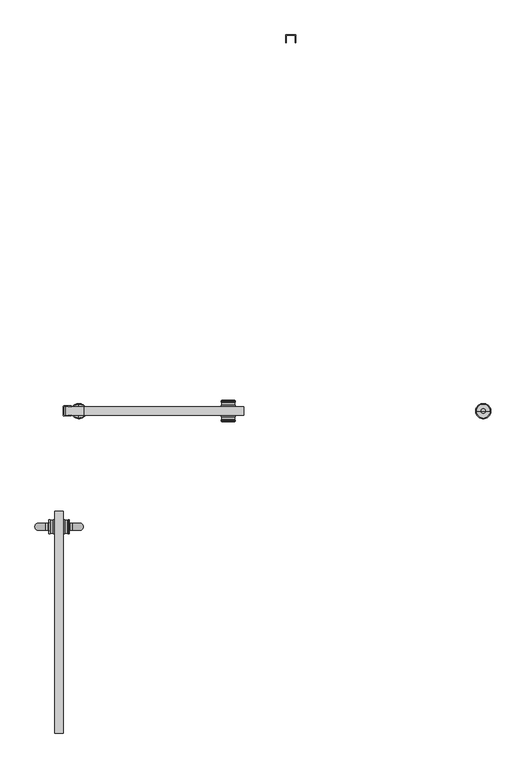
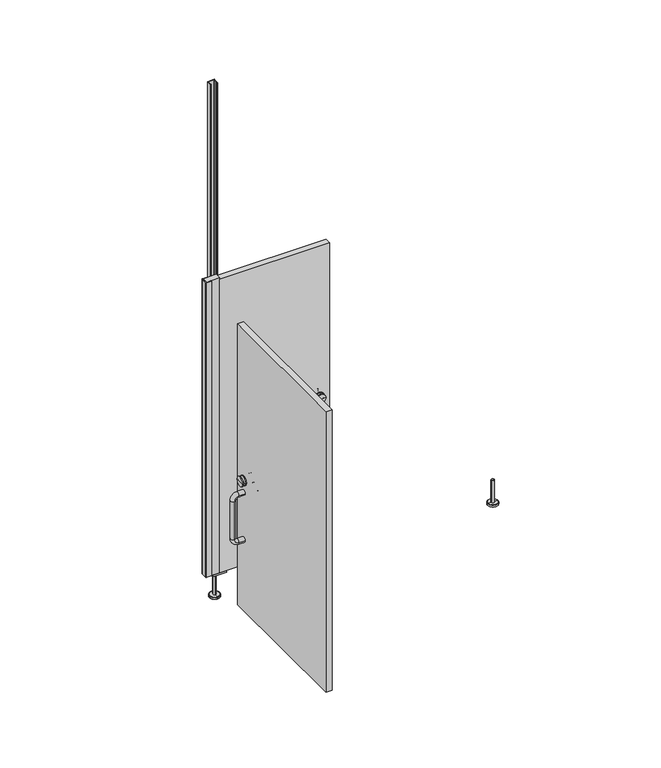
"""IFC4 building model written with IfcOpenShell, lengths in millimetres: proxy geometry, Partition_EuroStyle-Bradley_Corp-ADA_Alcove_3StandardStall-LOFT : Partition_EuroStyle-Bradley_Corp-ADA_Alcove_3StandardStall-LOFT."""

from ifc_helpers import new_model, si_unit, point, frame, frame_2d, origin, place, context, project, spatial, polyline, circle_curve, ellipse_curve, trimmed, segment, composite_curve, outline, extrude, source, transform, mapped, element, save
from ifc_brep_helpers import plane_surface, cylinder_surface, revolved_surface, advanced_brep


def specialty_equipment_daf9b19e(model_context):
    return source(origin(), model_context, "Body", "SolidModel", [
        advanced_brep(
        [(3297.8453255, -1541.9996549, 150.0000008), (3315.8453248, -1541.9996549, 150.0000008), (3315.8453248, -1541.9996549, 12.0000001), (3297.8453255, -1541.9996549, 12.0000001), (3306.8453251, -1541.9996549, 150.0000008), (3275.8453262, -1541.9996549, 0.0), (3337.8453241, -1541.9996549, 0.0), (3306.8453251, -1541.9996549, 0.0), (3275.8453262, -1541.9996549, 10.0000001), (3337.8453241, -1541.9996549, 10.0000001), (3277.8477381, -1541.9996549, 12.0000001), (3335.8429122, -1541.9996549, 12.0000001)],
        [
            (0, 1, circle_curve(frame((3306.8453251, -1541.9996549, 150.0000008), z_axis=(0.0, 0.0, -1.0), x_axis=(1.0, 0.0, 0.0)), 8.9999997)),
            (1, 2),
            (2, 3, circle_curve(frame((3306.8453251, -1541.9996549, 12.0000001), z_axis=(0.0, 0.0, 1.0), x_axis=(1.0, 0.0, 0.0)), 8.9999997)),
            (3, 0),
            (1, 0, circle_curve(frame((3306.8453251, -1541.9996549, 150.0000008), z_axis=(0.0, 0.0, -1.0), x_axis=(1.0, 0.0, 0.0)), 8.9999997)),
            (3, 2, circle_curve(frame((3306.8453251, -1541.9996549, 12.0000001), z_axis=(0.0, 0.0, 1.0), x_axis=(1.0, 0.0, 0.0)), 8.9999997)),
            (4, 1),
            (0, 4),
            (5, 6, circle_curve(frame((3306.8453251, -1541.9996549, 0.0), z_axis=(0.0, 0.0, -1.0), x_axis=(1.0, 0.0, 0.0)), 30.9999989)),
            (6, 7),
            (7, 5),
            (6, 5, circle_curve(frame((3306.8453251, -1541.9996549, 0.0), z_axis=(0.0, 0.0, -1.0), x_axis=(1.0, 0.0, 0.0)), 30.9999989)),
            (8, 9, circle_curve(frame((3306.8453251, -1541.9996549, 10.0000001), z_axis=(0.0, 0.0, -1.0), x_axis=(1.0, 0.0, 0.0)), 30.9999989)),
            (9, 6),
            (5, 8),
            (9, 8, circle_curve(frame((3306.8453251, -1541.9996549, 10.0000001), z_axis=(0.0, 0.0, -1.0), x_axis=(1.0, 0.0, 0.0)), 30.9999989)),
            (10, 11, circle_curve(frame((3306.8453251, -1541.9996549, 12.0000001), z_axis=(0.0, 0.0, -1.0), x_axis=(1.0, 0.0, 0.0)), 28.997587)),
            (11, 9),
            (8, 10),
            (11, 10, circle_curve(frame((3306.8453251, -1541.9996549, 12.0000001), z_axis=(0.0, 0.0, -1.0), x_axis=(1.0, 0.0, 0.0)), 28.997587)),
            (2, 11),
            (10, 3),
        ],
        [
            cylinder_surface(frame((3306.8453251, -1541.9996549, 0.0), z_axis=(0.0, 0.0, 1.0), x_axis=(1.0, 0.0, 0.0)), 8.9999997),
            plane_surface(frame((3306.8453251, -1541.9996549, 150.0000008), z_axis=(0.0, 0.0, 1.0), x_axis=(1.0, 0.0, 0.0))),
            plane_surface(frame((3306.8453251, -1541.9996549, 0.0), z_axis=(0.0, 0.0, -1.0), x_axis=(1.0, 0.0, 0.0))),
            cylinder_surface(frame((3306.8453251, -1541.9996549, 0.0), z_axis=(0.0, 0.0, 1.0), x_axis=(1.0, 0.0, 0.0)), 30.9999989),
            revolved_surface(polyline([(3337.8453241, -1541.9996549, 10.0000001), (3335.8429122, -1541.9996549, 12.0000001)]), (3306.8453251, -1541.9996549, 0.0), (0.0, 0.0, 1.0)),
            plane_surface(frame((3306.8453251, -1541.9996549, 12.0000001), z_axis=(0.0, 0.0, 1.0), x_axis=(1.0, 0.0, 0.0))),
        ],
        [
            (0, [[1, 2, 3, 4]]),
            (0, [[5, -4, 6, -2]]),
            (1, [[7, -1, 8]]),
            (1, [[-8, -5, -7]]),
            (2, [[9, 10, 11]]),
            (2, [[12, -11, -10]]),
            (3, [[13, 14, -9, 15]]),
            (3, [[16, -15, -12, -14]]),
            (4, [[17, 18, -13, 19]]),
            (4, [[20, -19, -16, -18]]),
            (5, [[-3, 21, -17, 22]]),
            (5, [[-6, -22, -20, -21]]),
        ],
    ),
        advanced_brep(
        [(1549.4, -2031.8, 975.0), (1549.4, -2001.8, 975.0), (1549.4, -2031.8, 679.0), (1549.4, -2001.8, 679.0), (1513.4, -2001.8, 975.0), (1513.4, -2031.8, 975.0), (1483.4, -2001.8, 945.0), (1483.4, -2001.8, 709.0), (1483.4, -2031.8, 709.0), (1483.4, -2031.8, 945.0), (1513.4, -2001.8, 679.0), (1513.4, -2031.8, 679.0)],
        [
            (0, 1, circle_curve(frame((1549.4, -2016.8, 975.0), z_axis=(1.0, 0.0, 0.0), x_axis=(0.0, 1.0, 0.0)), 15.0)),
            (1, 0, circle_curve(frame((1549.4, -2016.8, 975.0), z_axis=(1.0, 0.0, 0.0), x_axis=(0.0, 1.0, 0.0)), 15.0)),
            (2, 3, circle_curve(frame((1549.4, -2016.8, 679.0), z_axis=(1.0, 0.0, 0.0), x_axis=(0.0, 1.0, 0.0)), 15.0)),
            (3, 2, circle_curve(frame((1549.4, -2016.8, 679.0), z_axis=(1.0, 0.0, 0.0), x_axis=(0.0, 1.0, 0.0)), 15.0)),
            (1, 4),
            (4, 5, circle_curve(frame((1513.4, -2016.8, 975.0), z_axis=(1.0, 0.0, 0.0), x_axis=(0.0, 1.0, 0.0)), 15.0)),
            (5, 0),
            (5, 4, circle_curve(frame((1513.4, -2016.8, 975.0), z_axis=(1.0, 0.0, 0.0), x_axis=(0.0, 1.0, 0.0)), 15.0)),
            (6, 7),
            (7, 8, circle_curve(frame((1483.4, -2016.8, 709.0), z_axis=(0.0, 0.0, 1.0), x_axis=(0.0, 1.0, 0.0)), 15.0)),
            (8, 9),
            (9, 6, circle_curve(frame((1483.4, -2016.8, 945.0), z_axis=(0.0, 0.0, -1.0), x_axis=(0.0, 1.0, 0.0)), 15.0)),
            (8, 7, circle_curve(frame((1483.4, -2016.8, 709.0), z_axis=(0.0, 0.0, 1.0), x_axis=(0.0, 1.0, 0.0)), 15.0)),
            (6, 9, circle_curve(frame((1483.4, -2016.8, 945.0), z_axis=(0.0, 0.0, -1.0), x_axis=(0.0, 1.0, 0.0)), 15.0)),
            (10, 3),
            (2, 11),
            (11, 10, circle_curve(frame((1513.4, -2016.8, 679.0), z_axis=(1.0, 0.0, 0.0), x_axis=(0.0, 1.0, 0.0)), 15.0)),
            (10, 11, circle_curve(frame((1513.4, -2016.8, 679.0), z_axis=(1.0, 0.0, 0.0), x_axis=(0.0, 1.0, 0.0)), 15.0)),
            (9, 5, circle_curve(frame((1513.4, -2031.8, 945.0), z_axis=(0.0, 1.0, 0.0), x_axis=(0.0, 0.0, 1.0)), 30.0)),
            (4, 6, circle_curve(frame((1513.4, -2001.8, 945.0), z_axis=(0.0, -1.0, 0.0), x_axis=(0.0, 0.0, 1.0)), 30.0)),
            (11, 8, circle_curve(frame((1513.4, -2031.8, 709.0), z_axis=(0.0, 1.0, 0.0), x_axis=(-1.0, 0.0, 0.0)), 30.0)),
            (7, 10, circle_curve(frame((1513.4, -2001.8, 709.0), z_axis=(0.0, -1.0, 0.0), x_axis=(-1.0, 0.0, 0.0)), 30.0)),
        ],
        [
            plane_surface(frame((1549.4, -2016.8, 975.0), z_axis=(1.0, 0.0, 0.0), x_axis=(0.0, 1.0, 0.0))),
            plane_surface(frame((1549.4, -2016.8, 679.0), z_axis=(1.0, 0.0, 0.0), x_axis=(0.0, 1.0, 0.0))),
            cylinder_surface(frame((1549.4, -2016.8, 975.0), z_axis=(1.0, 0.0, 0.0), x_axis=(0.0, 1.0, 0.0)), 15.0),
            cylinder_surface(frame((1483.4, -2016.8, 945.0), z_axis=(0.0, 0.0, 1.0), x_axis=(0.0, 1.0, 0.0)), 15.0),
            cylinder_surface(frame((1513.4, -2016.8, 679.0), z_axis=(-1.0, 0.0, 0.0), x_axis=(0.0, 1.0, 0.0)), 15.0),
            revolved_surface(trimmed(ellipse_curve(frame((1513.4, -2016.8, 975.0), z_axis=(-1.0, 0.0, 0.0), x_axis=(0.0, 1.0, 0.0)), 15.0, 15.0), [point((1513.4, -2031.8, 975.0))], [point((1513.4, -2001.8, 975.0))], True, "CARTESIAN"), (1513.4, -2016.8, 945.0), (0.0, 1.0, 0.0)),
            revolved_surface(trimmed(ellipse_curve(frame((1513.4, -2016.8, 975.0), z_axis=(-1.0, 0.0, 0.0), x_axis=(0.0, 1.0, 0.0)), 15.0, 15.0), [point((1513.4, -2001.8, 975.0))], [point((1513.4, -2031.8, 975.0))], True, "CARTESIAN"), (1513.4, -2016.8, 945.0), (0.0, 1.0, 0.0)),
            revolved_surface(trimmed(ellipse_curve(frame((1483.4, -2016.8, 709.0), z_axis=(0.0, 0.0, -1.0), x_axis=(0.0, 1.0, 0.0)), 15.0, 15.0), [point((1483.4, -2031.8, 709.0))], [point((1483.4, -2001.8, 709.0))], True, "CARTESIAN"), (1513.4, -2016.8, 709.0), (0.0, 1.0, 0.0)),
            revolved_surface(trimmed(ellipse_curve(frame((1483.4, -2016.8, 709.0), z_axis=(0.0, 0.0, -1.0), x_axis=(0.0, 1.0, 0.0)), 15.0, 15.0), [point((1483.4, -2001.8, 709.0))], [point((1483.4, -2031.8, 709.0))], True, "CARTESIAN"), (1513.4, -2016.8, 709.0), (0.0, 1.0, 0.0)),
        ],
        [
            (0, [[1, 2]]),
            (1, [[3, 4]]),
            (2, [[5, 6, 7, -2]]),
            (2, [[-7, 8, -5, -1]]),
            (3, [[9, 10, 11, 12]]),
            (3, [[-11, 13, -9, 14]]),
            (4, [[15, -3, 16, 17]]),
            (4, [[-16, -4, -15, 18]]),
            (5, [[-12, 19, -6, 20]]),
            (6, [[-14, -20, -8, -19]]),
            (7, [[-17, 21, -10, 22]]),
            (8, [[-18, -22, -13, -21]]),
        ],
    ),
        advanced_brep(
        [(1585.4203251, -2031.8, 975.0), (1585.4203251, -2001.8, 975.0), (1585.4203251, -2031.8, 679.0), (1585.4203251, -2001.8, 679.0), (1621.4203251, -2031.8, 975.0), (1621.4203251, -2001.8, 975.0), (1651.4203251, -2001.8, 945.0), (1651.4203251, -2031.8, 945.0), (1651.4203251, -2031.8, 709.0), (1651.4203251, -2001.8, 709.0), (1621.4203251, -2001.8, 679.0), (1621.4203251, -2031.8, 679.0)],
        [
            (0, 1, circle_curve(frame((1585.4203251, -2016.8, 975.0), z_axis=(-1.0, 0.0, 0.0), x_axis=(0.0, 1.0, 0.0)), 15.0)),
            (1, 0, circle_curve(frame((1585.4203251, -2016.8, 975.0), z_axis=(-1.0, 0.0, 0.0), x_axis=(0.0, 1.0, 0.0)), 15.0)),
            (2, 3, circle_curve(frame((1585.4203251, -2016.8, 679.0), z_axis=(-1.0, 0.0, 0.0), x_axis=(0.0, 1.0, 0.0)), 15.0)),
            (3, 2, circle_curve(frame((1585.4203251, -2016.8, 679.0), z_axis=(-1.0, 0.0, 0.0), x_axis=(0.0, 1.0, 0.0)), 15.0)),
            (0, 4),
            (4, 5, circle_curve(frame((1621.4203251, -2016.8, 975.0), z_axis=(-1.0, 0.0, 0.0), x_axis=(0.0, 1.0, 0.0)), 15.0)),
            (5, 1),
            (5, 4, circle_curve(frame((1621.4203251, -2016.8, 975.0), z_axis=(-1.0, 0.0, 0.0), x_axis=(0.0, 1.0, 0.0)), 15.0)),
            (6, 7, circle_curve(frame((1651.4203251, -2016.8, 945.0), z_axis=(0.0, 0.0, -1.0), x_axis=(0.0, 1.0, 0.0)), 15.0)),
            (7, 8),
            (8, 9, circle_curve(frame((1651.4203251, -2016.8, 709.0), z_axis=(0.0, 0.0, 1.0), x_axis=(0.0, 1.0, 0.0)), 15.0)),
            (9, 6),
            (7, 6, circle_curve(frame((1651.4203251, -2016.8, 945.0), z_axis=(0.0, 0.0, -1.0), x_axis=(0.0, 1.0, 0.0)), 15.0)),
            (9, 8, circle_curve(frame((1651.4203251, -2016.8, 709.0), z_axis=(0.0, 0.0, 1.0), x_axis=(0.0, 1.0, 0.0)), 15.0)),
            (10, 11, circle_curve(frame((1621.4203251, -2016.8, 679.0), z_axis=(-1.0, 0.0, 0.0), x_axis=(0.0, 1.0, 0.0)), 15.0)),
            (11, 2),
            (3, 10),
            (11, 10, circle_curve(frame((1621.4203251, -2016.8, 679.0), z_axis=(-1.0, 0.0, 0.0), x_axis=(0.0, 1.0, 0.0)), 15.0)),
            (6, 5, circle_curve(frame((1621.4203251, -2001.8, 945.0), z_axis=(0.0, -1.0, 0.0), x_axis=(0.0, 0.0, 1.0)), 30.0)),
            (4, 7, circle_curve(frame((1621.4203251, -2031.8, 945.0), z_axis=(0.0, 1.0, 0.0), x_axis=(0.0, 0.0, 1.0)), 30.0)),
            (10, 9, circle_curve(frame((1621.4203251, -2001.8, 709.0), z_axis=(0.0, -1.0, 0.0), x_axis=(1.0, 0.0, 0.0)), 30.0)),
            (8, 11, circle_curve(frame((1621.4203251, -2031.8, 709.0), z_axis=(0.0, 1.0, 0.0), x_axis=(1.0, 0.0, 0.0)), 30.0)),
        ],
        [
            plane_surface(frame((1585.4203251, -2016.8, 975.0), z_axis=(-1.0, 0.0, 0.0), x_axis=(0.0, 1.0, 0.0))),
            plane_surface(frame((1585.4203251, -2016.8, 679.0), z_axis=(-1.0, 0.0, 0.0), x_axis=(0.0, 1.0, 0.0))),
            cylinder_surface(frame((1585.4203251, -2016.8, 975.0), z_axis=(-1.0, 0.0, 0.0), x_axis=(0.0, 1.0, 0.0)), 15.0),
            cylinder_surface(frame((1651.4203251, -2016.8, 945.0), z_axis=(0.0, 0.0, 1.0), x_axis=(0.0, 1.0, 0.0)), 15.0),
            cylinder_surface(frame((1621.4203251, -2016.8, 679.0), z_axis=(1.0, 0.0, 0.0), x_axis=(0.0, 1.0, 0.0)), 15.0),
            revolved_surface(trimmed(ellipse_curve(frame((1621.4203251, -2016.8, 975.0), z_axis=(-1.0, 0.0, 0.0), x_axis=(0.0, 1.0, 0.0)), 15.0, 15.0), [point((1621.4203251, -2031.8, 975.0))], [point((1621.4203251, -2001.8, 975.0))], True, "CARTESIAN"), (1621.4203251, -2016.8, 945.0), (0.0, 1.0, 0.0)),
            revolved_surface(trimmed(ellipse_curve(frame((1621.4203251, -2016.8, 975.0), z_axis=(-1.0, 0.0, 0.0), x_axis=(0.0, 1.0, 0.0)), 15.0, 15.0), [point((1621.4203251, -2001.8, 975.0))], [point((1621.4203251, -2031.8, 975.0))], True, "CARTESIAN"), (1621.4203251, -2016.8, 945.0), (0.0, 1.0, 0.0)),
            revolved_surface(trimmed(ellipse_curve(frame((1651.4203251, -2016.8, 709.0), z_axis=(0.0, 0.0, 1.0), x_axis=(0.0, 1.0, 0.0)), 15.0, 15.0), [point((1651.4203251, -2031.8, 709.0))], [point((1651.4203251, -2001.8, 709.0))], True, "CARTESIAN"), (1621.4203251, -2016.8, 709.0), (0.0, 1.0, 0.0)),
            revolved_surface(trimmed(ellipse_curve(frame((1651.4203251, -2016.8, 709.0), z_axis=(0.0, 0.0, 1.0), x_axis=(0.0, 1.0, 0.0)), 15.0, 15.0), [point((1651.4203251, -2001.8, 709.0))], [point((1651.4203251, -2031.8, 709.0))], True, "CARTESIAN"), (1621.4203251, -2016.8, 709.0), (0.0, 1.0, 0.0)),
        ],
        [
            (0, [[1, 2]]),
            (1, [[3, 4]]),
            (2, [[-1, 5, 6, 7]]),
            (2, [[-2, -7, 8, -5]]),
            (3, [[9, 10, 11, 12]]),
            (3, [[13, -12, 14, -10]]),
            (4, [[15, 16, -4, 17]]),
            (4, [[18, -17, -3, -16]]),
            (5, [[19, -6, 20, -9]]),
            (6, [[-20, -8, -19, -13]]),
            (7, [[21, -11, 22, -15]]),
            (8, [[-22, -14, -21, -18]]),
        ],
    ),
        advanced_brep(
        [(1549.4203251, -2045.375, 1050.0), (1549.4203251, -1988.225, 1050.0), (1549.4203251, -2016.8, 1050.0), (1544.6578251, -2045.375, 1050.0), (1544.6578251, -1988.225, 1050.0), (1525.6078251, -2045.375, 1050.0), (1525.6078251, -1988.225, 1050.0), (1530.3703251, -1988.225, 1050.0), (1530.3703251, -2045.375, 1050.0), (1531.9578251, -1989.8125, 1050.0), (1531.9578251, -2043.7875, 1050.0), (1543.0703251, -1989.8125, 1050.0), (1543.0703251, -2043.7875, 1050.0), (1524.0203251, -2016.8, 1050.0)],
        [
            (0, 1, circle_curve(frame((1549.4203251, -2016.8, 1050.0), z_axis=(1.0, 0.0, 0.0), x_axis=(0.0, 1.0, 0.0)), 28.575)),
            (1, 2),
            (2, 0),
            (1, 0, circle_curve(frame((1549.4203251, -2016.8, 1050.0), z_axis=(1.0, 0.0, 0.0), x_axis=(0.0, 1.0, 0.0)), 28.575)),
            (3, 4, circle_curve(frame((1544.6578251, -2016.8, 1050.0), z_axis=(1.0, 0.0, 0.0), x_axis=(0.0, 1.0, 0.0)), 28.575)),
            (4, 1),
            (0, 3),
            (4, 3, circle_curve(frame((1544.6578251, -2016.8, 1050.0), z_axis=(1.0, 0.0, 0.0), x_axis=(0.0, 1.0, 0.0)), 28.575)),
            (5, 6, circle_curve(frame((1525.6078251, -2016.8, 1050.0), z_axis=(1.0, 0.0, 0.0), x_axis=(0.0, 1.0, 0.0)), 28.575)),
            (6, 7),
            (7, 8, circle_curve(frame((1530.3703251, -2016.8, 1050.0), z_axis=(-1.0, 0.0, 0.0), x_axis=(0.0, 1.0, 0.0)), 28.575)),
            (8, 5),
            (6, 5, circle_curve(frame((1525.6078251, -2016.8, 1050.0), z_axis=(1.0, 0.0, 0.0), x_axis=(0.0, 1.0, 0.0)), 28.575)),
            (8, 7, circle_curve(frame((1530.3703251, -2016.8, 1050.0), z_axis=(-1.0, 0.0, 0.0), x_axis=(0.0, 1.0, 0.0)), 28.575)),
            (7, 9, circle_curve(frame((1531.9578251, -1988.225, 1050.0), z_axis=(0.0, 0.0, 1.0), x_axis=(0.0, 1.0, 0.0)), 1.5875)),
            (9, 10, circle_curve(frame((1531.9578251, -2016.8, 1050.0), z_axis=(-1.0, 0.0, 0.0), x_axis=(0.0, 1.0, 0.0)), 26.9875)),
            (10, 8, circle_curve(frame((1531.9578251, -2045.375, 1050.0), z_axis=(0.0, 0.0, 1.0), x_axis=(0.0, -1.0, 0.0)), 1.5875)),
            (10, 9, circle_curve(frame((1531.9578251, -2016.8, 1050.0), z_axis=(-1.0, 0.0, 0.0), x_axis=(0.0, 1.0, 0.0)), 26.9875)),
            (9, 11),
            (11, 12, circle_curve(frame((1543.0703251, -2016.8, 1050.0), z_axis=(-1.0, 0.0, 0.0), x_axis=(0.0, 1.0, 0.0)), 26.9875)),
            (12, 10),
            (12, 11, circle_curve(frame((1543.0703251, -2016.8, 1050.0), z_axis=(-1.0, 0.0, 0.0), x_axis=(0.0, 1.0, 0.0)), 26.9875)),
            (11, 4, circle_curve(frame((1543.0703251, -1988.225, 1050.0), z_axis=(0.0, 0.0, 1.0), x_axis=(0.0, 1.0, 0.0)), 1.5875)),
            (3, 12, circle_curve(frame((1543.0703251, -2045.375, 1050.0), z_axis=(0.0, 0.0, 1.0), x_axis=(0.0, -1.0, 0.0)), 1.5875)),
            (13, 6, circle_curve(frame((1715.4948544, -2013.1058766, 1050.0), z_axis=(0.0, 0.0, -1.0), x_axis=(0.0, 1.0, 0.0)), 191.5101613)),
            (5, 13, circle_curve(frame((1715.4948544, -2020.4941234, 1050.0), z_axis=(0.0, 0.0, -1.0), x_axis=(0.0, -1.0, 0.0)), 191.5101613)),
        ],
        [
            plane_surface(frame((1549.4203251, -2016.8, 1050.0), z_axis=(1.0, 0.0, 0.0), x_axis=(0.0, 1.0, 0.0))),
            cylinder_surface(frame((1549.4203251, -2016.8, 1050.0), z_axis=(-1.0, 0.0, 0.0), x_axis=(0.0, 1.0, 0.0)), 28.575),
            revolved_surface(trimmed(ellipse_curve(frame((1531.9578251, -1988.225, 1050.0), z_axis=(0.0, 0.0, -1.0), x_axis=(0.0, 1.0, 0.0)), 1.5875, 1.5875), [point((1531.9578251, -1989.8125, 1050.0))], [point((1530.3703251, -1988.225, 1050.0))], True, "CARTESIAN"), (1549.4203251, -2016.8, 1050.0), (-1.0, 0.0, 0.0)),
            cylinder_surface(frame((1549.4203251, -2016.8, 1050.0), z_axis=(-1.0, 0.0, 0.0), x_axis=(0.0, 1.0, 0.0)), 26.9875),
            revolved_surface(trimmed(ellipse_curve(frame((1543.0703251, -1988.225, 1050.0), z_axis=(0.0, 0.0, -1.0), x_axis=(0.0, 1.0, 0.0)), 1.5875, 1.5875), [point((1544.6578251, -1988.225, 1050.0))], [point((1543.0703251, -1989.8125, 1050.0))], True, "CARTESIAN"), (1549.4203251, -2016.8, 1050.0), (-1.0, 0.0, 0.0)),
            revolved_surface(trimmed(ellipse_curve(frame((1715.4948544, -2013.1058766, 1050.0), z_axis=(0.0, 0.0, 1.0), x_axis=(0.0, 1.0, 0.0)), 191.5101613, 191.5101613), [point((1525.6078251, -1988.225, 1050.0))], [point((1524.0203251, -2016.8, 1050.0))], True, "CARTESIAN"), (1549.4203251, -2016.8, 1050.0), (-1.0, 0.0, 0.0)),
        ],
        [
            (0, [[1, 2, 3]]),
            (0, [[4, -3, -2]]),
            (1, [[5, 6, -1, 7]]),
            (1, [[8, -7, -4, -6]]),
            (1, [[9, 10, 11, 12]]),
            (1, [[13, -12, 14, -10]]),
            (2, [[-11, 15, 16, 17]]),
            (2, [[-14, -17, 18, -15]]),
            (3, [[-16, 19, 20, 21]]),
            (3, [[-18, -21, 22, -19]]),
            (4, [[-20, 23, -5, 24]]),
            (4, [[-22, -24, -8, -23]]),
            (5, [[25, -9, 26]]),
            (5, [[-26, -13, -25]]),
        ],
    ),
        advanced_brep(
        [(1585.4203251, -2016.8, 1050.0), (1585.4203251, -1988.225, 1050.0), (1585.4203251, -2045.375, 1050.0), (1590.1828251, -1988.225, 1050.0), (1590.1828251, -2045.375, 1050.0), (1604.4703251, -2045.375, 1050.0), (1604.4703251, -1988.225, 1050.0), (1609.2328251, -1988.225, 1050.0), (1609.2328251, -2045.375, 1050.0), (1602.8828251, -2043.7875, 1050.0), (1602.8828251, -1989.8125, 1050.0), (1591.7703251, -2043.7875, 1050.0), (1591.7703251, -1989.8125, 1050.0), (1610.8203251, -2016.8, 1050.0)],
        [
            (0, 1),
            (1, 2, circle_curve(frame((1585.4203251, -2016.8, 1050.0), z_axis=(-1.0, 0.0, 0.0), x_axis=(0.0, 1.0, 0.0)), 28.575)),
            (2, 0),
            (2, 1, circle_curve(frame((1585.4203251, -2016.8, 1050.0), z_axis=(-1.0, 0.0, 0.0), x_axis=(0.0, 1.0, 0.0)), 28.575)),
            (1, 3),
            (3, 4, circle_curve(frame((1590.1828251, -2016.8, 1050.0), z_axis=(-1.0, 0.0, 0.0), x_axis=(0.0, 1.0, 0.0)), 28.575)),
            (4, 2),
            (4, 3, circle_curve(frame((1590.1828251, -2016.8, 1050.0), z_axis=(-1.0, 0.0, 0.0), x_axis=(0.0, 1.0, 0.0)), 28.575)),
            (5, 6, circle_curve(frame((1604.4703251, -2016.8, 1050.0), z_axis=(1.0, 0.0, 0.0), x_axis=(0.0, 1.0, 0.0)), 28.575)),
            (6, 7),
            (7, 8, circle_curve(frame((1609.2328251, -2016.8, 1050.0), z_axis=(-1.0, 0.0, 0.0), x_axis=(0.0, 1.0, 0.0)), 28.575)),
            (8, 5),
            (6, 5, circle_curve(frame((1604.4703251, -2016.8, 1050.0), z_axis=(1.0, 0.0, 0.0), x_axis=(0.0, 1.0, 0.0)), 28.575)),
            (8, 7, circle_curve(frame((1609.2328251, -2016.8, 1050.0), z_axis=(-1.0, 0.0, 0.0), x_axis=(0.0, 1.0, 0.0)), 28.575)),
            (9, 10, circle_curve(frame((1602.8828251, -2016.8, 1050.0), z_axis=(1.0, 0.0, 0.0), x_axis=(0.0, 1.0, 0.0)), 26.9875)),
            (10, 6, circle_curve(frame((1602.8828251, -1988.225, 1050.0), z_axis=(0.0, 0.0, 1.0), x_axis=(0.0, 1.0, 0.0)), 1.5875)),
            (5, 9, circle_curve(frame((1602.8828251, -2045.375, 1050.0), z_axis=(0.0, 0.0, 1.0), x_axis=(0.0, -1.0, 0.0)), 1.5875)),
            (10, 9, circle_curve(frame((1602.8828251, -2016.8, 1050.0), z_axis=(1.0, 0.0, 0.0), x_axis=(0.0, 1.0, 0.0)), 26.9875)),
            (11, 12, circle_curve(frame((1591.7703251, -2016.8, 1050.0), z_axis=(1.0, 0.0, 0.0), x_axis=(0.0, 1.0, 0.0)), 26.9875)),
            (12, 10),
            (9, 11),
            (12, 11, circle_curve(frame((1591.7703251, -2016.8, 1050.0), z_axis=(1.0, 0.0, 0.0), x_axis=(0.0, 1.0, 0.0)), 26.9875)),
            (3, 12, circle_curve(frame((1591.7703251, -1988.225, 1050.0), z_axis=(0.0, 0.0, 1.0), x_axis=(0.0, 1.0, 0.0)), 1.5875)),
            (11, 4, circle_curve(frame((1591.7703251, -2045.375, 1050.0), z_axis=(0.0, 0.0, 1.0), x_axis=(0.0, -1.0, 0.0)), 1.5875)),
            (7, 13, circle_curve(frame((1419.3457959, -2013.1058766, 1050.0), z_axis=(0.0, 0.0, -1.0), x_axis=(0.0, 1.0, 0.0)), 191.5101613)),
            (13, 8, circle_curve(frame((1419.3457959, -2020.4941234, 1050.0), z_axis=(0.0, 0.0, -1.0), x_axis=(0.0, -1.0, 0.0)), 191.5101613)),
        ],
        [
            plane_surface(frame((1585.4203251, -2016.8, 1050.0), z_axis=(-1.0, 0.0, 0.0), x_axis=(0.0, 1.0, 0.0))),
            cylinder_surface(frame((1585.4203251, -2016.8, 1050.0), z_axis=(-1.0, 0.0, 0.0), x_axis=(0.0, 1.0, 0.0)), 28.575),
            revolved_surface(trimmed(ellipse_curve(frame((1602.8828251, -1988.225, 1050.0), z_axis=(0.0, 0.0, -1.0), x_axis=(0.0, 1.0, 0.0)), 1.5875, 1.5875), [point((1604.4703251, -1988.225, 1050.0))], [point((1602.8828251, -1989.8125, 1050.0))], True, "CARTESIAN"), (1585.4203251, -2016.8, 1050.0), (-1.0, 0.0, 0.0)),
            cylinder_surface(frame((1585.4203251, -2016.8, 1050.0), z_axis=(-1.0, 0.0, 0.0), x_axis=(0.0, 1.0, 0.0)), 26.9875),
            revolved_surface(trimmed(ellipse_curve(frame((1591.7703251, -1988.225, 1050.0), z_axis=(0.0, 0.0, -1.0), x_axis=(0.0, 1.0, 0.0)), 1.5875, 1.5875), [point((1591.7703251, -1989.8125, 1050.0))], [point((1590.1828251, -1988.225, 1050.0))], True, "CARTESIAN"), (1585.4203251, -2016.8, 1050.0), (-1.0, 0.0, 0.0)),
            revolved_surface(trimmed(ellipse_curve(frame((1419.3457959, -2013.1058766, 1050.0), z_axis=(0.0, 0.0, 1.0), x_axis=(0.0, 1.0, 0.0)), 191.5101613, 191.5101613), [point((1610.8203251, -2016.8, 1050.0))], [point((1609.2328251, -1988.225, 1050.0))], True, "CARTESIAN"), (1585.4203251, -2016.8, 1050.0), (-1.0, 0.0, 0.0)),
        ],
        [
            (0, [[1, 2, 3]]),
            (0, [[-3, 4, -1]]),
            (1, [[-2, 5, 6, 7]]),
            (1, [[-4, -7, 8, -5]]),
            (1, [[9, 10, 11, 12]]),
            (1, [[13, -12, 14, -10]]),
            (2, [[15, 16, -9, 17]]),
            (2, [[18, -17, -13, -16]]),
            (3, [[19, 20, -15, 21]]),
            (3, [[22, -21, -18, -20]]),
            (4, [[-6, 23, -19, 24]]),
            (4, [[-8, -24, -22, -23]]),
            (5, [[-11, 25, 26]]),
            (5, [[-14, -26, -25]]),
        ],
    ),
        extrude(outline(polyline([(1549.4, -2862.4032348), (1549.4, -1953.3), (1585.4203251, -1953.3), (1585.4203251, -2862.4032348), (1549.4, -2862.4032348)])), frame((0.0, 0.0, 228.6), z_axis=(0.0, 0.0, 1.0), x_axis=(1.0, 0.0, 0.0)), (0.0, 0.0, 1.0), 1767.4),
        advanced_brep(
        [(2232.4451766, -1524.0098174, 1050.0), (2289.5951766, -1524.0098174, 1050.0), (2261.0201766, -1524.0098174, 1050.0), (2232.4451766, -1519.2473174, 1050.0), (2289.5951766, -1519.2473174, 1050.0), (2232.4451766, -1500.1973174, 1050.0), (2289.5951766, -1500.1973174, 1050.0), (2289.5951766, -1504.9598174, 1050.0), (2232.4451766, -1504.9598174, 1050.0), (2288.0076766, -1506.5473174, 1050.0), (2234.0326766, -1506.5473174, 1050.0), (2288.0076766, -1517.6598174, 1050.0), (2234.0326766, -1517.6598174, 1050.0), (2261.0201766, -1498.6098174, 1050.0)],
        [
            (0, 1, circle_curve(frame((2261.0201766, -1524.0098174, 1050.0), z_axis=(0.0, -1.0, 0.0), x_axis=(1.0000000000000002, 0.0, 0.0)), 28.575)),
            (1, 2),
            (2, 0),
            (1, 0, circle_curve(frame((2261.0201766, -1524.0098174, 1050.0), z_axis=(0.0, -1.0, 0.0), x_axis=(1.0000000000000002, 0.0, 0.0)), 28.575)),
            (3, 4, circle_curve(frame((2261.0201766, -1519.2473174, 1050.0), z_axis=(0.0, -1.0, 0.0), x_axis=(1.0000000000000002, 0.0, 0.0)), 28.575)),
            (4, 1),
            (0, 3),
            (4, 3, circle_curve(frame((2261.0201766, -1519.2473174, 1050.0), z_axis=(0.0, -1.0, 0.0), x_axis=(1.0000000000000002, 0.0, 0.0)), 28.575)),
            (5, 6, circle_curve(frame((2261.0201766, -1500.1973174, 1050.0), z_axis=(0.0, -1.0, 0.0), x_axis=(1.0000000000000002, 0.0, 0.0)), 28.575)),
            (6, 7),
            (7, 8, circle_curve(frame((2261.0201766, -1504.9598174, 1050.0), z_axis=(0.0, 1.0, 0.0), x_axis=(1.0000000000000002, 0.0, 0.0)), 28.575)),
            (8, 5),
            (6, 5, circle_curve(frame((2261.0201766, -1500.1973174, 1050.0), z_axis=(0.0, -1.0, 0.0), x_axis=(1.0000000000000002, 0.0, 0.0)), 28.575)),
            (8, 7, circle_curve(frame((2261.0201766, -1504.9598174, 1050.0), z_axis=(0.0, 1.0, 0.0), x_axis=(1.0000000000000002, 0.0, 0.0)), 28.575)),
            (7, 9, circle_curve(frame((2289.5951766, -1506.5473174, 1050.0), z_axis=(0.0, 0.0, 1.0), x_axis=(1.0000000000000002, 0.0, 0.0)), 1.5875)),
            (9, 10, circle_curve(frame((2261.0201766, -1506.5473174, 1050.0), z_axis=(0.0, 1.0, 0.0), x_axis=(1.0000000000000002, 0.0, 0.0)), 26.9875)),
            (10, 8, circle_curve(frame((2232.4451766, -1506.5473174, 1050.0), z_axis=(0.0, 0.0, 1.0), x_axis=(-1.0000000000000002, 0.0, 0.0)), 1.5875)),
            (10, 9, circle_curve(frame((2261.0201766, -1506.5473174, 1050.0), z_axis=(0.0, 1.0, 0.0), x_axis=(1.0000000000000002, 0.0, 0.0)), 26.9875)),
            (9, 11),
            (11, 12, circle_curve(frame((2261.0201766, -1517.6598174, 1050.0), z_axis=(0.0, 1.0, 0.0), x_axis=(1.0000000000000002, 0.0, 0.0)), 26.9875)),
            (12, 10),
            (12, 11, circle_curve(frame((2261.0201766, -1517.6598174, 1050.0), z_axis=(0.0, 1.0, 0.0), x_axis=(1.0000000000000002, 0.0, 0.0)), 26.9875)),
            (11, 4, circle_curve(frame((2289.5951766, -1517.6598174, 1050.0), z_axis=(0.0, 0.0, 1.0), x_axis=(1.0000000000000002, 0.0, 0.0)), 1.5875)),
            (3, 12, circle_curve(frame((2232.4451766, -1517.6598174, 1050.0), z_axis=(0.0, 0.0, 1.0), x_axis=(-1.0000000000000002, 0.0, 0.0)), 1.5875)),
            (13, 6, circle_curve(frame((2264.7143, -1690.0843466, 1050.0), z_axis=(0.0, 0.0, -1.0), x_axis=(1.0000000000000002, 0.0, 0.0)), 191.5101613)),
            (5, 13, circle_curve(frame((2257.3260533, -1690.0843466, 1050.0), z_axis=(0.0, 0.0, -1.0), x_axis=(-1.0000000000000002, 0.0, 0.0)), 191.5101613)),
        ],
        [
            plane_surface(frame((2261.0201766, -1524.0098174, 1050.0), z_axis=(0.0, -1.0, 0.0), x_axis=(1.0, 0.0, 0.0))),
            cylinder_surface(frame((2261.0201766, -1524.0098174, 1050.0), z_axis=(0.0, 1.0000000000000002, 0.0), x_axis=(1.0000000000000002, 0.0, 0.0)), 28.575),
            revolved_surface(trimmed(ellipse_curve(frame((2289.5951766, -1506.5473174, 1050.0), z_axis=(0.0, 0.0, -1.0), x_axis=(1.0000000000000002, 0.0, 0.0)), 1.5875, 1.5875), [point((2288.0076766, -1506.5473174, 1050.0))], [point((2289.5951766, -1504.9598174, 1050.0))], True, "CARTESIAN"), (2261.0201766, -1524.0098174, 1050.0), (0.0, 1.0000000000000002, 0.0)),
            cylinder_surface(frame((2261.0201766, -1524.0098174, 1050.0), z_axis=(0.0, 1.0000000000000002, 0.0), x_axis=(1.0000000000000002, 0.0, 0.0)), 26.9875),
            revolved_surface(trimmed(ellipse_curve(frame((2289.5951766, -1517.6598174, 1050.0), z_axis=(0.0, 0.0, -1.0), x_axis=(1.0000000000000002, 0.0, 0.0)), 1.5875, 1.5875), [point((2289.5951766, -1519.2473174, 1050.0))], [point((2288.0076766, -1517.6598174, 1050.0))], True, "CARTESIAN"), (2261.0201766, -1524.0098174, 1050.0), (0.0, 1.0000000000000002, 0.0)),
            revolved_surface(trimmed(ellipse_curve(frame((2264.7143, -1690.0843466, 1050.0), z_axis=(0.0, 0.0, 1.0), x_axis=(1.0000000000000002, 0.0, 0.0)), 191.5101613, 191.5101613), [point((2289.5951766, -1500.1973174, 1050.0))], [point((2261.0201766, -1498.6098174, 1050.0))], True, "CARTESIAN"), (2261.0201766, -1524.0098174, 1050.0), (0.0, 1.0000000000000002, 0.0)),
        ],
        [
            (0, [[1, 2, 3]]),
            (0, [[4, -3, -2]]),
            (1, [[5, 6, -1, 7]]),
            (1, [[8, -7, -4, -6]]),
            (1, [[9, 10, 11, 12]]),
            (1, [[13, -12, 14, -10]]),
            (2, [[-11, 15, 16, 17]]),
            (2, [[-14, -17, 18, -15]]),
            (3, [[-16, 19, 20, 21]]),
            (3, [[-18, -21, 22, -19]]),
            (4, [[-20, 23, -5, 24]]),
            (4, [[-22, -24, -8, -23]]),
            (5, [[25, -9, 26]]),
            (5, [[-26, -13, -25]]),
        ],
    ),
        advanced_brep(
        [(2261.0201766, -1560.0098174, 1050.0), (2289.5951766, -1560.0098174, 1050.0), (2232.4451766, -1560.0098174, 1050.0), (2289.5951766, -1564.7723174, 1050.0), (2232.4451766, -1564.7723174, 1050.0), (2232.4451766, -1579.0598174, 1050.0), (2289.5951766, -1579.0598174, 1050.0), (2289.5951766, -1583.8223174, 1050.0), (2232.4451766, -1583.8223174, 1050.0), (2234.0326766, -1577.4723174, 1050.0), (2288.0076766, -1577.4723174, 1050.0), (2234.0326766, -1566.3598174, 1050.0), (2288.0076766, -1566.3598174, 1050.0), (2261.0201766, -1585.4098174, 1050.0)],
        [
            (0, 1),
            (1, 2, circle_curve(frame((2261.0201766, -1560.0098174, 1050.0), z_axis=(0.0, 1.0, 0.0), x_axis=(1.0000000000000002, 0.0, 0.0)), 28.575)),
            (2, 0),
            (2, 1, circle_curve(frame((2261.0201766, -1560.0098174, 1050.0), z_axis=(0.0, 1.0, 0.0), x_axis=(1.0000000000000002, 0.0, 0.0)), 28.575)),
            (1, 3),
            (3, 4, circle_curve(frame((2261.0201766, -1564.7723174, 1050.0), z_axis=(0.0, 1.0, 0.0), x_axis=(1.0000000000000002, 0.0, 0.0)), 28.575)),
            (4, 2),
            (4, 3, circle_curve(frame((2261.0201766, -1564.7723174, 1050.0), z_axis=(0.0, 1.0, 0.0), x_axis=(1.0000000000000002, 0.0, 0.0)), 28.575)),
            (5, 6, circle_curve(frame((2261.0201766, -1579.0598174, 1050.0), z_axis=(0.0, -1.0, 0.0), x_axis=(1.0000000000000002, 0.0, 0.0)), 28.575)),
            (6, 7),
            (7, 8, circle_curve(frame((2261.0201766, -1583.8223174, 1050.0), z_axis=(0.0, 1.0, 0.0), x_axis=(1.0000000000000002, 0.0, 0.0)), 28.575)),
            (8, 5),
            (6, 5, circle_curve(frame((2261.0201766, -1579.0598174, 1050.0), z_axis=(0.0, -1.0, 0.0), x_axis=(1.0000000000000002, 0.0, 0.0)), 28.575)),
            (8, 7, circle_curve(frame((2261.0201766, -1583.8223174, 1050.0), z_axis=(0.0, 1.0, 0.0), x_axis=(1.0000000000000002, 0.0, 0.0)), 28.575)),
            (9, 10, circle_curve(frame((2261.0201766, -1577.4723174, 1050.0), z_axis=(0.0, -1.0, 0.0), x_axis=(1.0000000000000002, 0.0, 0.0)), 26.9875)),
            (10, 6, circle_curve(frame((2289.5951766, -1577.4723174, 1050.0), z_axis=(0.0, 0.0, 1.0), x_axis=(1.0000000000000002, 0.0, 0.0)), 1.5875)),
            (5, 9, circle_curve(frame((2232.4451766, -1577.4723174, 1050.0), z_axis=(0.0, 0.0, 1.0), x_axis=(-1.0000000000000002, 0.0, 0.0)), 1.5875)),
            (10, 9, circle_curve(frame((2261.0201766, -1577.4723174, 1050.0), z_axis=(0.0, -1.0, 0.0), x_axis=(1.0000000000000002, 0.0, 0.0)), 26.9875)),
            (11, 12, circle_curve(frame((2261.0201766, -1566.3598174, 1050.0), z_axis=(0.0, -1.0, 0.0), x_axis=(1.0000000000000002, 0.0, 0.0)), 26.9875)),
            (12, 10),
            (9, 11),
            (12, 11, circle_curve(frame((2261.0201766, -1566.3598174, 1050.0), z_axis=(0.0, -1.0, 0.0), x_axis=(1.0000000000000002, 0.0, 0.0)), 26.9875)),
            (3, 12, circle_curve(frame((2289.5951766, -1566.3598174, 1050.0), z_axis=(0.0, 0.0, 1.0), x_axis=(1.0000000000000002, 0.0, 0.0)), 1.5875)),
            (11, 4, circle_curve(frame((2232.4451766, -1566.3598174, 1050.0), z_axis=(0.0, 0.0, 1.0), x_axis=(-1.0000000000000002, 0.0, 0.0)), 1.5875)),
            (7, 13, circle_curve(frame((2264.7143, -1393.9352882, 1050.0), z_axis=(0.0, 0.0, -1.0), x_axis=(1.0000000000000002, 0.0, 0.0)), 191.5101613)),
            (13, 8, circle_curve(frame((2257.3260533, -1393.9352882, 1050.0), z_axis=(0.0, 0.0, -1.0), x_axis=(-1.0000000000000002, 0.0, 0.0)), 191.5101613)),
        ],
        [
            plane_surface(frame((2261.0201766, -1560.0098174, 1050.0), z_axis=(0.0, 1.0, 0.0), x_axis=(1.0, 0.0, 0.0))),
            cylinder_surface(frame((2261.0201766, -1560.0098174, 1050.0), z_axis=(0.0, 1.0000000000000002, 0.0), x_axis=(1.0000000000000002, 0.0, 0.0)), 28.575),
            revolved_surface(trimmed(ellipse_curve(frame((2289.5951766, -1577.4723174, 1050.0), z_axis=(0.0, 0.0, -1.0), x_axis=(1.0000000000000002, 0.0, 0.0)), 1.5875, 1.5875), [point((2289.5951766, -1579.0598174, 1050.0))], [point((2288.0076766, -1577.4723174, 1050.0))], True, "CARTESIAN"), (2261.0201766, -1560.0098174, 1050.0), (0.0, 1.0000000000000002, 0.0)),
            cylinder_surface(frame((2261.0201766, -1560.0098174, 1050.0), z_axis=(0.0, 1.0000000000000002, 0.0), x_axis=(1.0000000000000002, 0.0, 0.0)), 26.9875),
            revolved_surface(trimmed(ellipse_curve(frame((2289.5951766, -1566.3598174, 1050.0), z_axis=(0.0, 0.0, -1.0), x_axis=(1.0000000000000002, 0.0, 0.0)), 1.5875, 1.5875), [point((2288.0076766, -1566.3598174, 1050.0))], [point((2289.5951766, -1564.7723174, 1050.0))], True, "CARTESIAN"), (2261.0201766, -1560.0098174, 1050.0), (0.0, 1.0000000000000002, 0.0)),
            revolved_surface(trimmed(ellipse_curve(frame((2264.7143, -1393.9352882, 1050.0), z_axis=(0.0, 0.0, 1.0), x_axis=(1.0000000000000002, 0.0, 0.0)), 191.5101613, 191.5101613), [point((2261.0201766, -1585.4098174, 1050.0))], [point((2289.5951766, -1583.8223174, 1050.0))], True, "CARTESIAN"), (2261.0201766, -1560.0098174, 1050.0), (0.0, 1.0000000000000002, 0.0)),
        ],
        [
            (0, [[1, 2, 3]]),
            (0, [[-3, 4, -1]]),
            (1, [[-2, 5, 6, 7]]),
            (1, [[-4, -7, 8, -5]]),
            (1, [[9, 10, 11, 12]]),
            (1, [[13, -12, 14, -10]]),
            (2, [[15, 16, -9, 17]]),
            (2, [[18, -17, -13, -16]]),
            (3, [[19, 20, -15, 21]]),
            (3, [[22, -21, -18, -20]]),
            (4, [[-6, 23, -19, 24]]),
            (4, [[-8, -24, -22, -23]]),
            (5, [[-11, 25, 26]]),
            (5, [[-14, -26, -25]]),
        ],
    ),
        extrude(outline(polyline([(1669.4170903, -1523.9894923), (2324.5201766, -1523.9894923), (2324.5201766, -1560.0098174), (1669.4170903, -1560.0098174), (1669.4170903, -1523.9894923)])), frame((0.0, 0.0, 150.1179687), z_axis=(0.0, 0.0, 1.0), x_axis=(1.0, 0.0, 0.0)), (0.0, 0.0, 1.0), 1845.8820313),
        extrude(outline(composite_curve([segment(polyline([(2497.3288796, -32.5000002), (2496.8205405, -2.02918)]), True, "CONTINUOUS"), segment(trimmed(circle_curve(frame_2d((2498.8497205, -2.02918)), 2.02918), [point((2496.8205405, -2.02918))], [point((2498.8497205, 0.0))], False, "CARTESIAN"), True, "CONTINUOUS"), segment(polyline([(2498.8497205, 0.0), (2536.7909298, 0.0)]), True, "CONTINUOUS"), segment(trimmed(circle_curve(frame_2d((2536.7909298, -2.02918)), 2.02918), [point((2536.7909298, 0.0))], [point((2538.8201098, -2.02918))], False, "CARTESIAN"), True, "CONTINUOUS"), segment(polyline([(2538.8201098, -2.02918), (2538.3117707, -32.5000002), (2536.8131851, -32.5000002)]), True, "CONTINUOUS"), segment(trimmed(circle_curve(frame_2d((2536.8167525, -31.5009082)), 0.9990984), [point((2536.8131851, -32.5000002))], [point((2536.3430999, -30.6212202))], False, "CARTESIAN"), True, "CONTINUOUS"), segment(polyline([(2536.3430999, -30.6212202), (2536.4642099, -23.3575702)]), True, "CONTINUOUS"), segment(trimmed(circle_curve(frame_2d((2536.9817558, -22.5000551)), 1.0015917), [point((2536.4642099, -23.3575702))], [point((2536.4926587, -21.6260013))], False, "CARTESIAN"), True, "CONTINUOUS"), segment(polyline([(2536.4926587, -21.6260013), (2536.78671, -4.0)]), True, "CONTINUOUS"), segment(trimmed(circle_curve(frame_2d((2534.7870154, -3.9990939)), 1.9996948), [point((2536.78671, -4.0))], [point((2534.7379958, -2.0))], True, "CARTESIAN"), True, "CONTINUOUS"), segment(polyline([(2534.7379958, -2.0), (2500.8536968, -2.0)]), True, "CONTINUOUS"), segment(trimmed(circle_curve(frame_2d((2500.8536968, -4.0002204)), 2.0002204), [point((2500.8536968, -2.0))], [point((2498.8535049, -3.9895469))], True, "CARTESIAN"), True, "CONTINUOUS"), segment(polyline([(2498.8535049, -3.9895469), (2499.1475604, -21.6257602)]), True, "CONTINUOUS"), segment(trimmed(circle_curve(frame_2d((2498.6588945, -22.5000551)), 1.0015917), [point((2499.1475604, -21.6257602))], [point((2499.1764404, -23.3575702))], False, "CARTESIAN"), True, "CONTINUOUS"), segment(polyline([(2499.1764404, -23.3575702), (2499.2975504, -30.6212202)]), True, "CONTINUOUS"), segment(trimmed(circle_curve(frame_2d((2498.8238978, -31.5009082)), 0.9990984), [point((2499.2975504, -30.6212202))], [point((2498.8274652, -32.5000002))], False, "CARTESIAN"), True, "CONTINUOUS"), segment(polyline([(2498.8274652, -32.5000002), (2497.3288796, -32.5000002)]), True, "CONTINUOUS")], self_intersect=False)), frame((0.0, 0.0, 150.0), z_axis=(0.0, 0.0, 1.0), x_axis=(1.0, 0.0, 0.0)), (0.0, 0.0, 1.0), 1855.0),
        advanced_brep(
        [(1648.9184939, -1532.9996552, 150.0000008), (1648.9184939, -1550.9996545, 150.0000008), (1648.9184939, -1550.9996545, 12.0000001), (1648.9184939, -1532.9996552, 12.0000001), (1648.9184939, -1541.9996549, 150.0000008), (1648.9184939, -1510.9996559, 0.0), (1648.9184939, -1572.9996538, 0.0), (1648.9184939, -1541.9996549, 0.0), (1648.9184939, -1510.9996559, 10.0000001), (1648.9184939, -1572.9996538, 10.0000001), (1648.9184939, -1513.0020678, 12.0000001), (1648.9184939, -1570.9972419, 12.0000001)],
        [
            (0, 1, circle_curve(frame((1648.9184939, -1541.9996549, 150.0000008), z_axis=(0.0, 0.0, -1.0), x_axis=(0.0, -1.0, 0.0)), 8.9999997)),
            (1, 2),
            (2, 3, circle_curve(frame((1648.9184939, -1541.9996549, 12.0000001), z_axis=(0.0, 0.0, 1.0), x_axis=(0.0, -1.0, 0.0)), 8.9999997)),
            (3, 0),
            (1, 0, circle_curve(frame((1648.9184939, -1541.9996549, 150.0000008), z_axis=(0.0, 0.0, -1.0), x_axis=(0.0, -1.0, 0.0)), 8.9999997)),
            (3, 2, circle_curve(frame((1648.9184939, -1541.9996549, 12.0000001), z_axis=(0.0, 0.0, 1.0), x_axis=(0.0, -1.0, 0.0)), 8.9999997)),
            (4, 1),
            (0, 4),
            (5, 6, circle_curve(frame((1648.9184939, -1541.9996549, 0.0), z_axis=(0.0, 0.0, -1.0), x_axis=(0.0, -1.0, 0.0)), 30.9999989)),
            (6, 7),
            (7, 5),
            (6, 5, circle_curve(frame((1648.9184939, -1541.9996549, 0.0), z_axis=(0.0, 0.0, -1.0), x_axis=(0.0, -1.0, 0.0)), 30.9999989)),
            (8, 9, circle_curve(frame((1648.9184939, -1541.9996549, 10.0000001), z_axis=(0.0, 0.0, -1.0), x_axis=(0.0, -1.0, 0.0)), 30.9999989)),
            (9, 6),
            (5, 8),
            (9, 8, circle_curve(frame((1648.9184939, -1541.9996549, 10.0000001), z_axis=(0.0, 0.0, -1.0), x_axis=(0.0, -1.0, 0.0)), 30.9999989)),
            (10, 11, circle_curve(frame((1648.9184939, -1541.9996549, 12.0000001), z_axis=(0.0, 0.0, -1.0), x_axis=(0.0, -1.0, 0.0)), 28.997587)),
            (11, 9),
            (8, 10),
            (11, 10, circle_curve(frame((1648.9184939, -1541.9996549, 12.0000001), z_axis=(0.0, 0.0, -1.0), x_axis=(0.0, -1.0, 0.0)), 28.997587)),
            (2, 11),
            (10, 3),
        ],
        [
            cylinder_surface(frame((1648.9184939, -1541.9996549, 0.0), z_axis=(0.0, 0.0, 1.0), x_axis=(0.0, -1.0, 0.0)), 8.9999997),
            plane_surface(frame((1648.9184939, -1541.9996549, 150.0000008), z_axis=(0.0, 0.0, 1.0), x_axis=(0.0, -1.0, 0.0))),
            plane_surface(frame((1648.9184939, -1541.9996549, 0.0), z_axis=(0.0, 0.0, -1.0), x_axis=(0.0, -1.0, 0.0))),
            cylinder_surface(frame((1648.9184939, -1541.9996549, 0.0), z_axis=(0.0, 0.0, 1.0), x_axis=(0.0, -1.0, 0.0)), 30.9999989),
            revolved_surface(polyline([(1648.9184939, -1572.9996538, 10.0000001), (1648.9184939, -1570.9972419, 12.0000001)]), (1648.9184939, -1541.9996549, 0.0), (0.0, 0.0, 1.0)),
            plane_surface(frame((1648.9184939, -1541.9996549, 12.0000001), z_axis=(0.0, 0.0, 1.0), x_axis=(0.0, -1.0, 0.0))),
        ],
        [
            (0, [[1, 2, 3, 4]]),
            (0, [[5, -4, 6, -2]]),
            (1, [[7, -1, 8]]),
            (1, [[-8, -5, -7]]),
            (2, [[9, 10, 11]]),
            (2, [[12, -11, -10]]),
            (3, [[13, 14, -9, 15]]),
            (3, [[16, -15, -12, -14]]),
            (4, [[17, 18, -13, 19]]),
            (4, [[20, -19, -16, -18]]),
            (5, [[-3, 21, -17, 22]]),
            (5, [[-6, -22, -20, -21]]),
        ],
    ),
        extrude(outline(composite_curve([segment(polyline([(1617.9203254, -1521.5082093), (1617.9203254, -1523.0067949)]), True, "CONTINUOUS"), segment(trimmed(circle_curve(frame_2d((1616.9212333, -1523.0032275)), 0.9990984), [point((1617.9203254, -1523.0067949))], [point((1616.0415454, -1523.4768801))], False, "CARTESIAN"), True, "CONTINUOUS"), segment(polyline([(1616.0415454, -1523.4768801), (1608.7778953, -1523.3557701)]), True, "CONTINUOUS"), segment(trimmed(circle_curve(frame_2d((1607.9203802, -1522.8382242)), 1.0015917), [point((1608.7778953, -1523.3557701))], [point((1607.0460853, -1523.3268901))], False, "CARTESIAN"), True, "CONTINUOUS"), segment(polyline([(1607.0460853, -1523.3268901), (1589.4098721, -1523.0328346)]), True, "CONTINUOUS"), segment(trimmed(circle_curve(frame_2d((1589.4205455, -1525.0330265)), 2.0002204), [point((1589.4098721, -1523.0328346))], [point((1587.4203251, -1525.0330265))], True, "CARTESIAN"), True, "CONTINUOUS"), segment(polyline([(1587.4203251, -1525.0330265), (1587.4203252, -1558.9173255)]), True, "CONTINUOUS"), segment(trimmed(circle_curve(frame_2d((1589.4194191, -1558.9663451)), 1.9996948), [point((1587.4203252, -1558.9173255))], [point((1589.4203252, -1560.9660398))], True, "CARTESIAN"), True, "CONTINUOUS"), segment(polyline([(1589.4203252, -1560.9660398), (1607.0463264, -1560.6719884)]), True, "CONTINUOUS"), segment(trimmed(circle_curve(frame_2d((1607.9203802, -1561.1610855)), 1.0015917), [point((1607.0463264, -1560.6719884))], [point((1608.7778953, -1560.6435396))], False, "CARTESIAN"), True, "CONTINUOUS"), segment(polyline([(1608.7778953, -1560.6435396), (1616.0415454, -1560.5224296)]), True, "CONTINUOUS"), segment(trimmed(circle_curve(frame_2d((1616.9212333, -1560.9960822)), 0.9990984), [point((1616.0415454, -1560.5224296))], [point((1617.9203254, -1560.9925148))], False, "CARTESIAN"), True, "CONTINUOUS"), segment(polyline([(1617.9203254, -1560.9925148), (1617.9203254, -1562.4911004), (1587.4495052, -1562.9994395)]), True, "CONTINUOUS"), segment(trimmed(circle_curve(frame_2d((1587.4495052, -1560.9702595)), 2.02918), [point((1587.4495052, -1562.9994395))], [point((1585.4203251, -1560.9702595))], False, "CARTESIAN"), True, "CONTINUOUS"), segment(polyline([(1585.4203251, -1560.9702595), (1585.4203251, -1523.0290502)]), True, "CONTINUOUS"), segment(trimmed(circle_curve(frame_2d((1587.4495052, -1523.0290502)), 2.02918), [point((1585.4203251, -1523.0290502))], [point((1587.4495052, -1520.9998702))], False, "CARTESIAN"), True, "CONTINUOUS"), segment(polyline([(1587.4495052, -1520.9998702), (1617.9203254, -1521.5082093)]), True, "CONTINUOUS")], self_intersect=False)), frame((0.0, 0.0, 150.0), z_axis=(0.0, 0.0, 1.0), x_axis=(1.0, 0.0, 0.0)), (0.0, 0.0, 1.0), 1855.0),
        extrude(outline(polyline([(146.0000008, 1630.3184945), (138.0669895, 1630.3184945), (138.0669895, 1710.1657277), (146.0000008, 1710.0671655), (146.0000008, 1630.3184945)])), frame((0.0, -1559.4621549, 0.0), z_axis=(0.0, 1.0, 0.0), x_axis=(0.0, 0.0, 1.0)), (0.0, 0.0, 1.0), 34.925),
        advanced_brep(
        [(1657.9184936, -1541.9996549, 150.0000008), (1639.9184942, -1541.9996549, 150.0000008), (1639.9184942, -1541.9996549, 12.0000001), (1657.9184936, -1541.9996549, 12.0000001), (1648.9184939, -1541.9996549, 150.0000008), (1679.9184928, -1541.9996549, 0.0), (1617.9184949, -1541.9996549, 0.0), (1648.9184939, -1541.9996549, 0.0), (1679.9184928, -1541.9996549, 10.0000001), (1617.9184949, -1541.9996549, 10.0000001), (1677.9160809, -1541.9996549, 12.0000001), (1619.9209068, -1541.9996549, 12.0000001)],
        [
            (0, 1, circle_curve(frame((1648.9184939, -1541.9996549, 150.0000008), z_axis=(0.0, 0.0, -1.0), x_axis=(-1.0, 0.0, 0.0)), 8.9999997)),
            (1, 2),
            (2, 3, circle_curve(frame((1648.9184939, -1541.9996549, 12.0000001), z_axis=(0.0, 0.0, 1.0), x_axis=(-1.0, 0.0, 0.0)), 8.9999997)),
            (3, 0),
            (1, 0, circle_curve(frame((1648.9184939, -1541.9996549, 150.0000008), z_axis=(0.0, 0.0, -1.0), x_axis=(-1.0, 0.0, 0.0)), 8.9999997)),
            (3, 2, circle_curve(frame((1648.9184939, -1541.9996549, 12.0000001), z_axis=(0.0, 0.0, 1.0), x_axis=(-1.0, 0.0, 0.0)), 8.9999997)),
            (4, 1),
            (0, 4),
            (5, 6, circle_curve(frame((1648.9184939, -1541.9996549, 0.0), z_axis=(0.0, 0.0, -1.0), x_axis=(-1.0, 0.0, 0.0)), 30.9999989)),
            (6, 7),
            (7, 5),
            (6, 5, circle_curve(frame((1648.9184939, -1541.9996549, 0.0), z_axis=(0.0, 0.0, -1.0), x_axis=(-1.0, 0.0, 0.0)), 30.9999989)),
            (8, 9, circle_curve(frame((1648.9184939, -1541.9996549, 10.0000001), z_axis=(0.0, 0.0, -1.0), x_axis=(-1.0, 0.0, 0.0)), 30.9999989)),
            (9, 6),
            (5, 8),
            (9, 8, circle_curve(frame((1648.9184939, -1541.9996549, 10.0000001), z_axis=(0.0, 0.0, -1.0), x_axis=(-1.0, 0.0, 0.0)), 30.9999989)),
            (10, 11, circle_curve(frame((1648.9184939, -1541.9996549, 12.0000001), z_axis=(0.0, 0.0, -1.0), x_axis=(-1.0, 0.0, 0.0)), 28.997587)),
            (11, 9),
            (8, 10),
            (11, 10, circle_curve(frame((1648.9184939, -1541.9996549, 12.0000001), z_axis=(0.0, 0.0, -1.0), x_axis=(-1.0, 0.0, 0.0)), 28.997587)),
            (2, 11),
            (10, 3),
        ],
        [
            cylinder_surface(frame((1648.9184939, -1541.9996549, 0.0), z_axis=(0.0, 0.0, 1.0), x_axis=(-1.0, 0.0, 0.0)), 8.9999997),
            plane_surface(frame((1648.9184939, -1541.9996549, 150.0000008), z_axis=(0.0, 0.0, 1.0), x_axis=(-1.0, 0.0, 0.0))),
            plane_surface(frame((1648.9184939, -1541.9996549, 0.0), z_axis=(0.0, 0.0, -1.0), x_axis=(-1.0, 0.0, 0.0))),
            cylinder_surface(frame((1648.9184939, -1541.9996549, 0.0), z_axis=(0.0, 0.0, 1.0), x_axis=(-1.0, 0.0, 0.0)), 30.9999989),
            revolved_surface(polyline([(1617.9184949, -1541.9996549, 10.0000001), (1619.9209068, -1541.9996549, 12.0000001)]), (1648.9184939, -1541.9996549, 0.0), (0.0, 0.0, 1.0)),
            plane_surface(frame((1648.9184939, -1541.9996549, 12.0000001), z_axis=(0.0, 0.0, 1.0), x_axis=(-1.0, 0.0, 0.0))),
        ],
        [
            (0, [[1, 2, 3, 4]]),
            (0, [[5, -4, 6, -2]]),
            (1, [[7, -1, 8]]),
            (1, [[-8, -5, -7]]),
            (2, [[9, 10, 11]]),
            (2, [[12, -11, -10]]),
            (3, [[13, 14, -9, 15]]),
            (3, [[16, -15, -12, -14]]),
            (4, [[17, 18, -13, 19]]),
            (4, [[20, -19, -16, -18]]),
            (5, [[-3, 21, -17, 22]]),
            (5, [[-6, -22, -20, -21]]),
        ],
    ),
        extrude(outline(polyline([(1595.4202531, -1523.9894923), (1669.4170903, -1523.9894923), (1669.4170903, -1560.0098174), (1595.4202531, -1560.0098174), (1595.4202531, -1523.9894923)])), frame((0.0, 0.0, 150.0), z_axis=(0.0, 0.0, 1.0), x_axis=(1.0, 0.0, 0.0)), (0.0, 0.0, 1.0), 1855.0),
    ])


if __name__ == "__main__":
    model = new_model("IFC4")
    model_context = context("Model", 3, world=origin())
    ifc_project = project(units=[si_unit("LENGTHUNIT", "METRE", prefix="MILLI")], contexts=[model_context])
    site = spatial("IfcSite", under=ifc_project)
    building = spatial("IfcBuilding", under=site)
    placement = place(None, origin())
    specialty_equipment_shape = specialty_equipment_daf9b19e(model_context)
    element("IfcBuildingElementProxy", 1, Name="Partition_EuroStyle-Bradley_Corp-ADA_Alcove_3StandardStall-LOFT : Partition_EuroStyle-Bradley_Corp-ADA_Alcove_3StandardStall-LOFT", ObjectType="Partition_EuroStyle-Bradley_Corp-ADA_Alcove_3StandardStall-LOFT : Partition_EuroStyle-Bradley_Corp-ADA_Alcove_3StandardStall-LOFT", at=placement, inside=building, context=model_context, shape_type="MappedRepresentation", body=[
        mapped(specialty_equipment_shape, transform((0.0, 0.0, 0.0), x_axis=(1.0, 0.0, 0.0), y_axis=(0.0, 1.0, 0.0), z_axis=(0.0, 0.0, 1.0))),
    ])
    save(model, "model.ifc")
